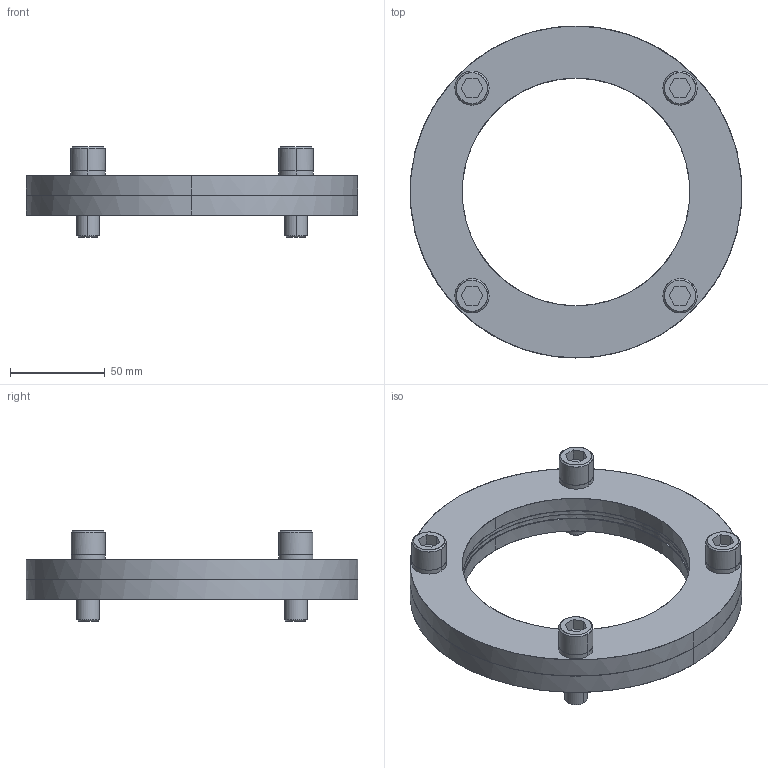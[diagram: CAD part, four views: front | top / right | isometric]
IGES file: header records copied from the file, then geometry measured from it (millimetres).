
Global section: file name: E:\UnigraphicsGraphicData\MISUMI_PRESS-PARTS\IGES\3d_kf120_04239_r00.igs; native system: NX V5.0; preprocessor: UGS NX IGES V5.0; author: MISUMI; date: 20110105.161125; units: millimetre
Bounding box: 175 x 175 x 47.5 mm (x, y, z)
Surface area: 84531.6 mm2 (no closed solid volume)
Topology: 0 solids, 0 shells, 130 faces, 1024 edges, 1024 vertices
Faces by surface type: bspline 130
